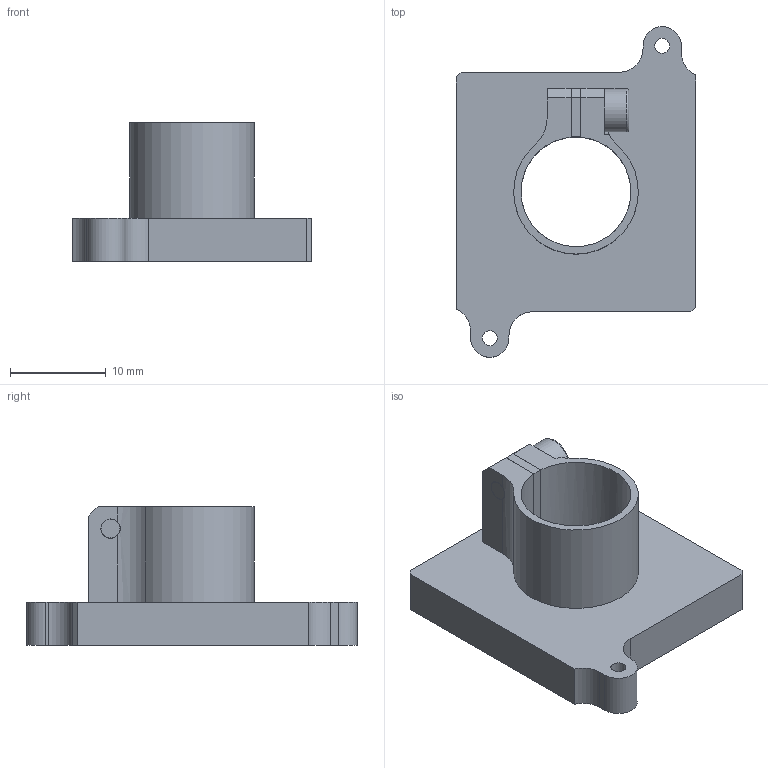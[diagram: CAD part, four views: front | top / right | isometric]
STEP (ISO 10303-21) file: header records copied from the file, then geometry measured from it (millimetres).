
FILE_DESCRIPTION(/* description */ (''),/* implementation_level */ '2;1');
FILE_NAME(/* name */ 'KSM_306-23-00-10-01_ZB MLH 10 mm (Schraube-Silikon).stp',/* time_stamp */ '2026-01-16T14:20:08+01:00',/* author */ ('khw'),/* organization */ ('TIS/ Germany'),/* preprocessor_version */ 'ST-DEVELOPER v20',/* originating_system */ 'Autodesk Inventor 2025',/* authorisation */ '6767,5 mm^3');
FILE_SCHEMA (('AUTOMOTIVE_DESIGN { 1 0 10303 214 3 1 1 }'));
Length unit declared in the file: millimetre
Products named in the file (1): KSM_306-23-00-10-01_ZB MLH 10 mm (Schraube-Silikon)
Bounding box: 25 x 34.5 x 14.5 mm (x, y, z)
Volume: 1567.9 mm3; surface area: 2926.3 mm2
Topology: 1 solids, 1 shells, 62 faces, 174 edges, 116 vertices
Faces by surface type: plane 38, cylinder 21, cone 2, torus 1
Full cylindrical faces by diameter (mm): 1.567 x2, 2.013 x1, 4.5 x1, 11.459 x1
Entity records: 2160 total; most frequent: CARTESIAN_POINT 394, ORIENTED_EDGE 346, DIRECTION 337, EDGE_CURVE 173, VERTEX_POINT 116, LINE 115, VECTOR 115, AXIS2_PLACEMENT_3D 111
